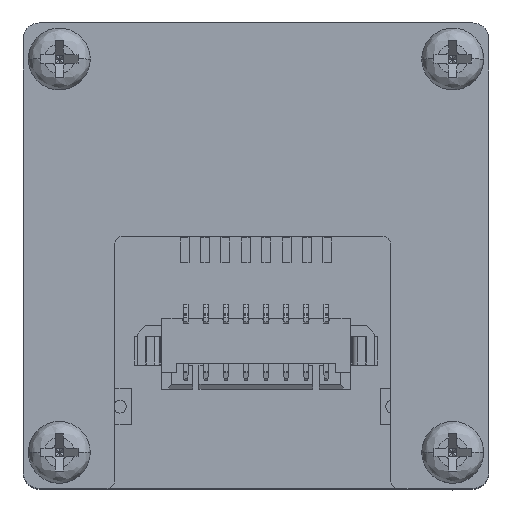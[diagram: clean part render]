
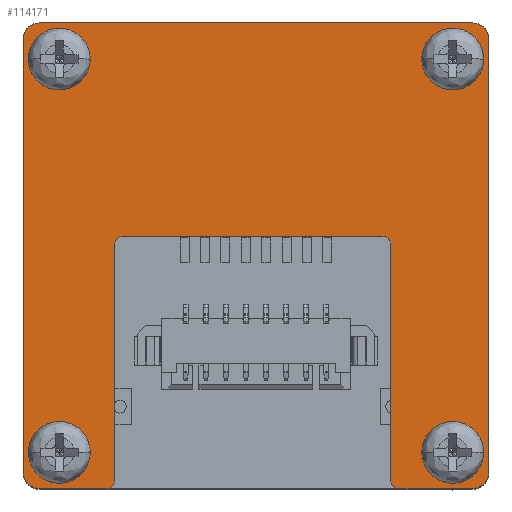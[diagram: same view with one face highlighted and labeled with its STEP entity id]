
A CAD part, top view. The second image highlights one B-rep face of the part: STEP entity #114171.
In plain terms, the highlighted planar face has unit normal (0, 0, 1).
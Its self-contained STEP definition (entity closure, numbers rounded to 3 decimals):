
#14587=DIRECTION('',(-1.,0.,0.));
#14588=VECTOR('',#14587,27.);
#14589=CARTESIAN_POINT('',(13.5,14.5,19.5));
#14590=LINE('',#14589,#14588);
#14595=DIRECTION('',(0.,1.,0.));
#14596=VECTOR('',#14595,27.);
#14597=CARTESIAN_POINT('',(-14.5,-13.5,19.5));
#14598=LINE('',#14597,#14596);
#14599=CARTESIAN_POINT('',(-13.5,13.5,19.5));
#14600=DIRECTION('',(0.,0.,-1.));
#14601=DIRECTION('',(-1.,0.,0.));
#14602=AXIS2_PLACEMENT_3D('',#14599,#14600,#14601);
#14604=CARTESIAN_POINT('',(13.5,13.5,19.5));
#14605=DIRECTION('',(0.,0.,-1.));
#14606=DIRECTION('',(0.,1.,0.));
#14607=AXIS2_PLACEMENT_3D('',#14604,#14605,#14606);
#14609=DIRECTION('',(0.,-1.,0.));
#14610=VECTOR('',#14609,27.);
#14611=CARTESIAN_POINT('',(14.5,13.5,19.5));
#14612=LINE('',#14611,#14610);
#14613=CARTESIAN_POINT('',(13.5,-13.5,19.5));
#14614=DIRECTION('',(0.,0.,-1.));
#14615=DIRECTION('',(1.,0.,0.));
#14616=AXIS2_PLACEMENT_3D('',#14613,#14614,#14615);
#14618=DIRECTION('',(-1.,0.,0.));
#14619=VECTOR('',#14618,4.6);
#14620=CARTESIAN_POINT('',(13.5,-14.5,19.5));
#14621=LINE('',#14620,#14619);
#14622=CARTESIAN_POINT('',(8.9,-14.,19.5));
#14623=DIRECTION('',(0.,0.,-1.));
#14624=DIRECTION('',(0.,-1.,0.));
#14625=AXIS2_PLACEMENT_3D('',#14622,#14623,#14624);
#14627=DIRECTION('',(0.,1.,0.));
#14628=VECTOR('',#14627,14.7);
#14629=CARTESIAN_POINT('',(8.4,-14.,19.5));
#14630=LINE('',#14629,#14628);
#14631=CARTESIAN_POINT('',(7.9,0.7,19.5));
#14632=DIRECTION('',(0.,0.,1.));
#14633=DIRECTION('',(1.,0.,0.));
#14634=AXIS2_PLACEMENT_3D('',#14631,#14632,#14633);
#14636=DIRECTION('',(-1.,0.,0.));
#14637=VECTOR('',#14636,16.2);
#14638=CARTESIAN_POINT('',(7.9,1.2,19.5));
#14639=LINE('',#14638,#14637);
#14640=CARTESIAN_POINT('',(-8.3,0.7,19.5));
#14641=DIRECTION('',(0.,0.,1.));
#14642=DIRECTION('',(0.,1.,0.));
#14643=AXIS2_PLACEMENT_3D('',#14640,#14641,#14642);
#14645=DIRECTION('',(0.,-1.,0.));
#14646=VECTOR('',#14645,14.7);
#14647=CARTESIAN_POINT('',(-8.8,0.7,19.5));
#14648=LINE('',#14647,#14646);
#14649=CARTESIAN_POINT('',(-9.3,-14.,19.5));
#14650=DIRECTION('',(0.,0.,-1.));
#14651=DIRECTION('',(1.,0.,0.));
#14652=AXIS2_PLACEMENT_3D('',#14649,#14650,#14651);
#14654=DIRECTION('',(-1.,0.,0.));
#14655=VECTOR('',#14654,4.2);
#14656=CARTESIAN_POINT('',(-9.3,-14.5,19.5));
#14657=LINE('',#14656,#14655);
#14658=CARTESIAN_POINT('',(-13.5,-13.5,19.5));
#14659=DIRECTION('',(0.,0.,-1.));
#14660=DIRECTION('',(0.,-1.,0.));
#14661=AXIS2_PLACEMENT_3D('',#14658,#14659,#14660);
#14663=CARTESIAN_POINT('',(-12.25,12.25,19.5));
#14664=DIRECTION('',(0.,0.,1.));
#14665=DIRECTION('',(-1.,0.,0.));
#14666=AXIS2_PLACEMENT_3D('',#14663,#14664,#14665);
#14668=CARTESIAN_POINT('',(-12.25,12.25,19.5));
#14669=DIRECTION('',(0.,0.,1.));
#14670=DIRECTION('',(1.,0.,0.));
#14671=AXIS2_PLACEMENT_3D('',#14668,#14669,#14670);
#14673=CARTESIAN_POINT('',(-12.25,-12.25,19.5));
#14674=DIRECTION('',(0.,0.,1.));
#14675=DIRECTION('',(-1.,0.,0.));
#14676=AXIS2_PLACEMENT_3D('',#14673,#14674,#14675);
#14678=CARTESIAN_POINT('',(-12.25,-12.25,19.5));
#14679=DIRECTION('',(0.,0.,1.));
#14680=DIRECTION('',(1.,0.,0.));
#14681=AXIS2_PLACEMENT_3D('',#14678,#14679,#14680);
#14683=CARTESIAN_POINT('',(12.25,12.25,19.5));
#14684=DIRECTION('',(0.,0.,1.));
#14685=DIRECTION('',(-1.,0.,0.));
#14686=AXIS2_PLACEMENT_3D('',#14683,#14684,#14685);
#14688=CARTESIAN_POINT('',(12.25,12.25,19.5));
#14689=DIRECTION('',(0.,0.,1.));
#14690=DIRECTION('',(1.,0.,0.));
#14691=AXIS2_PLACEMENT_3D('',#14688,#14689,#14690);
#14693=CARTESIAN_POINT('',(12.25,-12.25,19.5));
#14694=DIRECTION('',(0.,0.,1.));
#14695=DIRECTION('',(-1.,0.,0.));
#14696=AXIS2_PLACEMENT_3D('',#14693,#14694,#14695);
#14698=CARTESIAN_POINT('',(12.25,-12.25,19.5));
#14699=DIRECTION('',(0.,0.,1.));
#14700=DIRECTION('',(1.,0.,0.));
#14701=AXIS2_PLACEMENT_3D('',#14698,#14699,#14700);
#80366=CARTESIAN_POINT('',(-13.5,14.5,19.5));
#80367=VERTEX_POINT('',#80366);
#80368=CARTESIAN_POINT('',(-14.5,13.5,19.5));
#80369=VERTEX_POINT('',#80368);
#80370=CARTESIAN_POINT('',(13.5,14.5,19.5));
#80371=VERTEX_POINT('',#80370);
#80372=CARTESIAN_POINT('',(-14.5,-13.5,19.5));
#80373=VERTEX_POINT('',#80372);
#80374=CARTESIAN_POINT('',(14.5,13.5,19.5));
#80375=VERTEX_POINT('',#80374);
#80376=CARTESIAN_POINT('',(14.5,-13.5,19.5));
#80377=VERTEX_POINT('',#80376);
#80378=CARTESIAN_POINT('',(13.5,-14.5,19.5));
#80379=VERTEX_POINT('',#80378);
#80380=CARTESIAN_POINT('',(8.9,-14.5,19.5));
#80381=VERTEX_POINT('',#80380);
#80382=CARTESIAN_POINT('',(8.4,-14.,19.5));
#80383=VERTEX_POINT('',#80382);
#80384=CARTESIAN_POINT('',(8.4,0.7,19.5));
#80385=VERTEX_POINT('',#80384);
#80386=CARTESIAN_POINT('',(7.9,1.2,19.5));
#80387=VERTEX_POINT('',#80386);
#80388=CARTESIAN_POINT('',(-8.3,1.2,19.5));
#80389=VERTEX_POINT('',#80388);
#80390=CARTESIAN_POINT('',(-8.8,0.7,19.5));
#80391=VERTEX_POINT('',#80390);
#80392=CARTESIAN_POINT('',(-8.8,-14.,19.5));
#80393=VERTEX_POINT('',#80392);
#80394=CARTESIAN_POINT('',(-9.3,-14.5,19.5));
#80395=VERTEX_POINT('',#80394);
#80396=CARTESIAN_POINT('',(-13.5,-14.5,19.5));
#80397=VERTEX_POINT('',#80396);
#80398=CARTESIAN_POINT('',(-14.175,12.25,19.5));
#80399=CARTESIAN_POINT('',(-10.325,12.25,19.5));
#80400=VERTEX_POINT('',#80398);
#80401=VERTEX_POINT('',#80399);
#80402=CARTESIAN_POINT('',(-14.175,-12.25,19.5));
#80403=CARTESIAN_POINT('',(-10.325,-12.25,19.5));
#80404=VERTEX_POINT('',#80402);
#80405=VERTEX_POINT('',#80403);
#80406=CARTESIAN_POINT('',(10.325,12.25,19.5));
#80407=CARTESIAN_POINT('',(14.175,12.25,19.5));
#80408=VERTEX_POINT('',#80406);
#80409=VERTEX_POINT('',#80407);
#80410=CARTESIAN_POINT('',(10.325,-12.25,19.5));
#80411=CARTESIAN_POINT('',(14.175,-12.25,19.5));
#80412=VERTEX_POINT('',#80410);
#80413=VERTEX_POINT('',#80411);
#114110=CARTESIAN_POINT('',(0.,0.,19.5));
#114111=DIRECTION('',(0.,0.,1.));
#114112=DIRECTION('',(1.,0.,0.));
#114113=AXIS2_PLACEMENT_3D('',#114110,#114111,#114112);
#114114=PLANE('',#114113);
#114116=ORIENTED_EDGE('',*,*,#114115,.T.);
#114117=ORIENTED_EDGE('',*,*,#114089,.T.);
#114118=ORIENTED_EDGE('',*,*,#114101,.F.);
#114120=ORIENTED_EDGE('',*,*,#114119,.T.);
#114122=ORIENTED_EDGE('',*,*,#114121,.T.);
#114124=ORIENTED_EDGE('',*,*,#114123,.T.);
#114126=ORIENTED_EDGE('',*,*,#114125,.T.);
#114128=ORIENTED_EDGE('',*,*,#114127,.T.);
#114130=ORIENTED_EDGE('',*,*,#114129,.T.);
#114132=ORIENTED_EDGE('',*,*,#114131,.T.);
#114134=ORIENTED_EDGE('',*,*,#114133,.T.);
#114136=ORIENTED_EDGE('',*,*,#114135,.T.);
#114138=ORIENTED_EDGE('',*,*,#114137,.T.);
#114140=ORIENTED_EDGE('',*,*,#114139,.T.);
#114142=ORIENTED_EDGE('',*,*,#114141,.T.);
#114144=ORIENTED_EDGE('',*,*,#114143,.T.);
#114145=EDGE_LOOP('',(#114116,#114117,#114118,#114120,#114122,#114124,#114126,
#114128,#114130,#114132,#114134,#114136,#114138,#114140,#114142,#114144));
#114146=FACE_OUTER_BOUND('',#114145,.F.);
#114148=ORIENTED_EDGE('',*,*,#114147,.T.);
#114150=ORIENTED_EDGE('',*,*,#114149,.T.);
#114151=EDGE_LOOP('',(#114148,#114150));
#114152=FACE_BOUND('',#114151,.F.);
#114154=ORIENTED_EDGE('',*,*,#114153,.T.);
#114156=ORIENTED_EDGE('',*,*,#114155,.T.);
#114157=EDGE_LOOP('',(#114154,#114156));
#114158=FACE_BOUND('',#114157,.F.);
#114160=ORIENTED_EDGE('',*,*,#114159,.T.);
#114162=ORIENTED_EDGE('',*,*,#114161,.T.);
#114163=EDGE_LOOP('',(#114160,#114162));
#114164=FACE_BOUND('',#114163,.F.);
#114166=ORIENTED_EDGE('',*,*,#114165,.T.);
#114168=ORIENTED_EDGE('',*,*,#114167,.T.);
#114169=EDGE_LOOP('',(#114166,#114168));
#114170=FACE_BOUND('',#114169,.F.);
#114171=ADVANCED_FACE('',(#114146,#114152,#114158,#114164,#114170),#114114,.T.);
#14603=CIRCLE('',#14602,1.);
#14608=CIRCLE('',#14607,1.);
#14617=CIRCLE('',#14616,1.);
#14626=CIRCLE('',#14625,0.5);
#14635=CIRCLE('',#14634,0.5);
#14644=CIRCLE('',#14643,0.5);
#14653=CIRCLE('',#14652,0.5);
#14662=CIRCLE('',#14661,1.);
#14667=CIRCLE('',#14666,1.925);
#14672=CIRCLE('',#14671,1.925);
#14677=CIRCLE('',#14676,1.925);
#14682=CIRCLE('',#14681,1.925);
#14687=CIRCLE('',#14686,1.925);
#14692=CIRCLE('',#14691,1.925);
#14697=CIRCLE('',#14696,1.925);
#14702=CIRCLE('',#14701,1.925);
#114089=EDGE_CURVE('',#80369,#80367,#14603,.T.);
#114101=EDGE_CURVE('',#80371,#80367,#14590,.T.);
#114115=EDGE_CURVE('',#80373,#80369,#14598,.T.);
#114119=EDGE_CURVE('',#80371,#80375,#14608,.T.);
#114121=EDGE_CURVE('',#80375,#80377,#14612,.T.);
#114123=EDGE_CURVE('',#80377,#80379,#14617,.T.);
#114125=EDGE_CURVE('',#80379,#80381,#14621,.T.);
#114127=EDGE_CURVE('',#80381,#80383,#14626,.T.);
#114129=EDGE_CURVE('',#80383,#80385,#14630,.T.);
#114131=EDGE_CURVE('',#80385,#80387,#14635,.T.);
#114133=EDGE_CURVE('',#80387,#80389,#14639,.T.);
#114135=EDGE_CURVE('',#80389,#80391,#14644,.T.);
#114137=EDGE_CURVE('',#80391,#80393,#14648,.T.);
#114139=EDGE_CURVE('',#80393,#80395,#14653,.T.);
#114141=EDGE_CURVE('',#80395,#80397,#14657,.T.);
#114143=EDGE_CURVE('',#80397,#80373,#14662,.T.);
#114147=EDGE_CURVE('',#80400,#80401,#14667,.T.);
#114149=EDGE_CURVE('',#80401,#80400,#14672,.T.);
#114153=EDGE_CURVE('',#80404,#80405,#14677,.T.);
#114155=EDGE_CURVE('',#80405,#80404,#14682,.T.);
#114159=EDGE_CURVE('',#80408,#80409,#14687,.T.);
#114161=EDGE_CURVE('',#80409,#80408,#14692,.T.);
#114165=EDGE_CURVE('',#80412,#80413,#14697,.T.);
#114167=EDGE_CURVE('',#80413,#80412,#14702,.T.);
